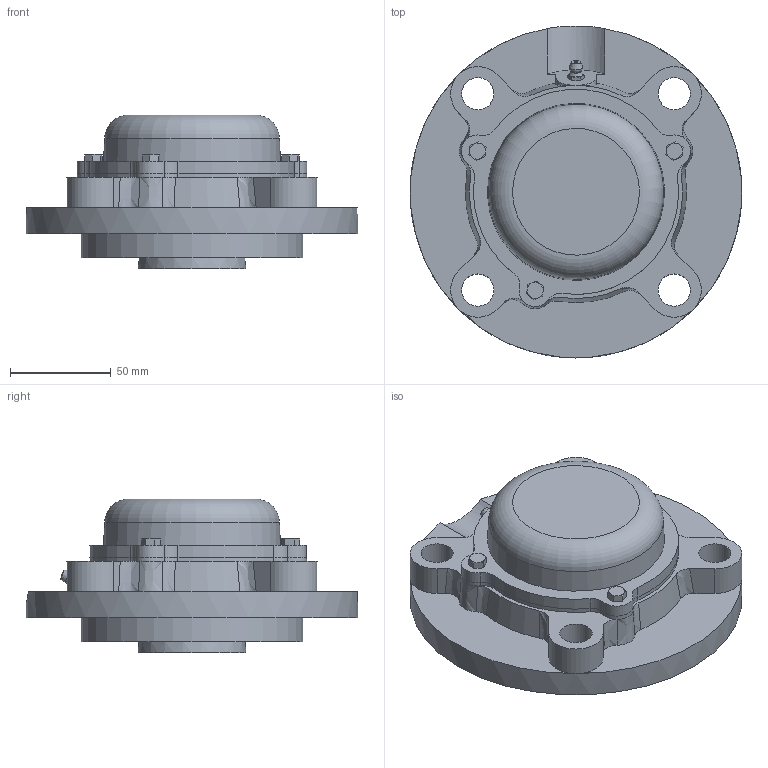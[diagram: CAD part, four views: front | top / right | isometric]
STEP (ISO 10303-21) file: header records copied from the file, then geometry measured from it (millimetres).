
FILE_DESCRIPTION((''),'2;1');
FILE_NAME('\\Ts-tgl068\j-cad-d-base\00.3DCADデータ作成フォルダ\02.フランジ形\CUKFC200\CUKFC210CE+H.stp','2014-05-22T08:57:57',('btec_1106_2'),(''),'Autodesk Inventor 2012','Autodesk Inventor 2012','');
FILE_SCHEMA(('AUTOMOTIVE_DESIGN { 1 0 10303 214 1 1 1 1 }'));
Length unit declared in the file: millimetre
Products named in the file (7): CUKFC200CE+H; CFC210; UK210; GU1; 210CE; M5X0
Assembly tree (8 placements, depth 3):
  CUKFC200CE+H
    CFC210
    UK210
    GU1
    210CE
      210CE
      M5X0  x3
Bounding box: 165 x 165 x 76.5 mm (x, y, z)
Volume: 531169.4 mm3; surface area: 127868.4 mm2
Topology: 7 solids, 7 shells, 293 faces, 747 edges, 481 vertices
Faces by surface type: plane 114, cylinder 82, cone 75, bspline 14, sphere 4, torus 4
Full cylindrical faces by diameter (mm): 4.134 x3, 5 x3, 5.359 x1, 6 x3, 6.35 x1, 16 x4, 45 x1, 63 x2, 88 x1, 92 x1, 110 x1, 165 x1
Entity records: 8426 total; most frequent: CARTESIAN_POINT 2360, ORIENTED_EDGE 1244, DIRECTION 1201, EDGE_CURVE 622, AXIS2_PLACEMENT_3D 504, VERTEX_POINT 419, EDGE_LOOP 328, FACE_OUTER_BOUND 259
